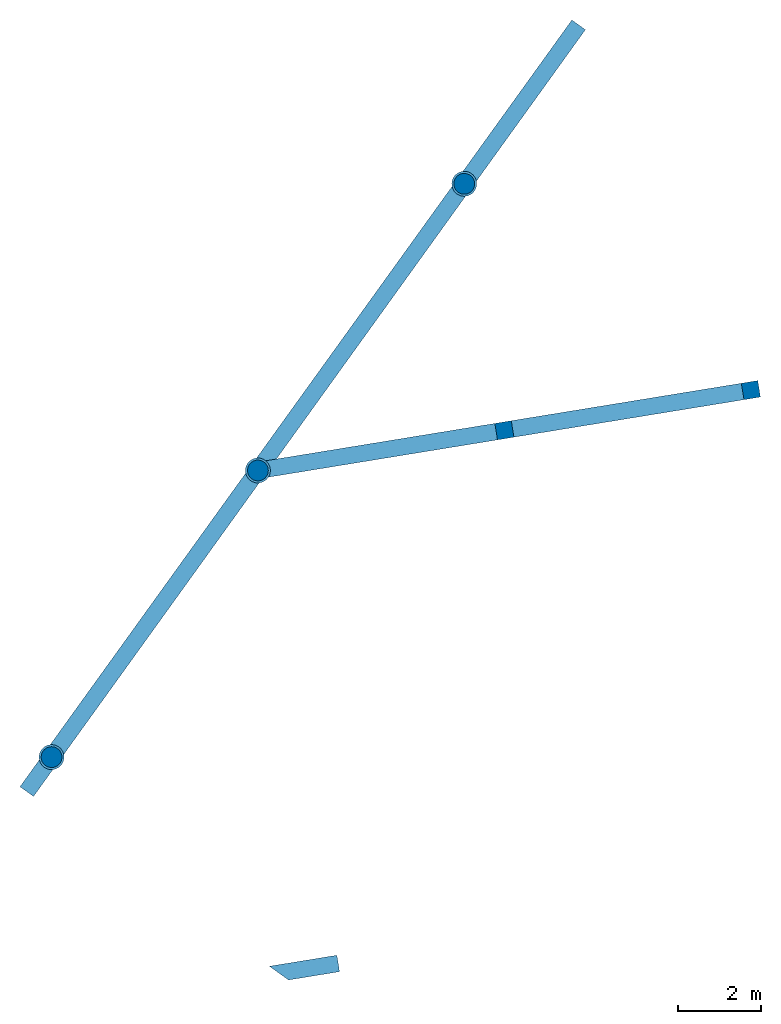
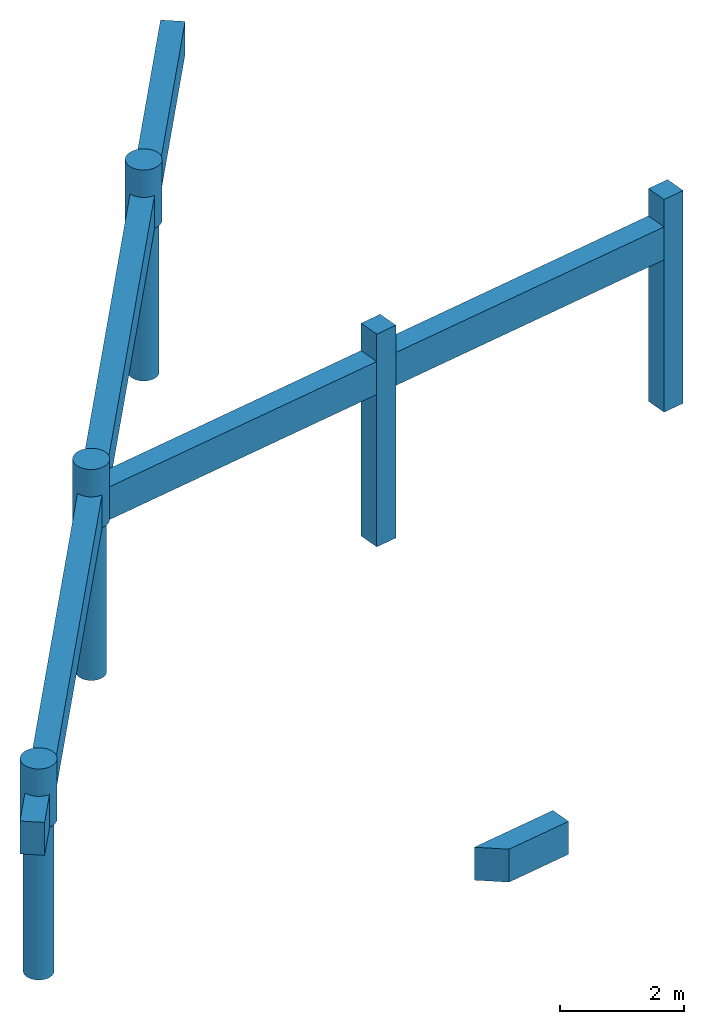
# One storey: 8 columns, 7 beams.
"""IFC2X3 building model written with IfcOpenShell, lengths in millimetres."""

from ifc_helpers import new_model, entity, si_unit, converted_unit, derived_unit, direction, frame, frame_2d, origin, origin_with_axes, place, context, subcontext, project, spatial, polyline, rectangle, outline, extrude, faceted_brep, material, type_object, element, save


model = new_model("IFC2X3")

# Units and contexts
model_context = context("Model", 3, precision=0.01, world=origin(), true_north=direction((6.12323399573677e-17, 1.0)))
plan_context = context("Plan", 3, precision=1e-05, world=origin_with_axes())
body_context = subcontext(model_context, "Body", "Model", "MODEL_VIEW")
ifc_project = project(units=[converted_unit("PLANEANGLEUNIT", "DEGREE", entity("IfcPositiveLengthMeasure", 0.0174532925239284), si_unit("PLANEANGLEUNIT", "RADIAN"), dimensions=[0, 0, 0, 0, 0, 0, 0]), si_unit("AREAUNIT", "SQUARE_METRE"), si_unit("LENGTHUNIT", "METRE", prefix="MILLI"), si_unit("MASSUNIT", "GRAM", prefix="KILO"), si_unit("POWERUNIT", "WATT"), si_unit("PRESSUREUNIT", "PASCAL", prefix="KILO"), si_unit("FORCEUNIT", "NEWTON", prefix="KILO"), si_unit("ELECTRICVOLTAGEUNIT", "VOLT"), si_unit("ELECTRICCURRENTUNIT", "AMPERE"), si_unit("THERMODYNAMICTEMPERATUREUNIT", "DEGREE_CELSIUS"), si_unit("TIMEUNIT", "SECOND"), si_unit("VOLUMEUNIT", "CUBIC_METRE"), derived_unit("LINEARVELOCITYUNIT", [(si_unit("LENGTHUNIT", "METRE"), 1), (si_unit("TIMEUNIT", "SECOND"), -1)]), derived_unit("VOLUMETRICFLOWRATEUNIT", [(si_unit("VOLUMEUNIT", "CUBIC_METRE"), 1), (si_unit("TIMEUNIT", "SECOND"), -1)]), derived_unit("THERMALTRANSMITTANCEUNIT", [(si_unit("POWERUNIT", "WATT"), 1), (si_unit("THERMODYNAMICTEMPERATUREUNIT", "KELVIN"), -1), (si_unit("AREAUNIT", "SQUARE_METRE"), -1)]), derived_unit("SOUNDPRESSUREUNIT", [(si_unit("PRESSUREUNIT", "PASCAL"), 1)])], contexts=[model_context, plan_context])

# Site, building, storey
site_placement = place(None, frame((5.09380697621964e-08, 5.80416781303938e-08, 0.0), z_axis=(0.0, 0.0, 1.0), x_axis=(-0.160806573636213, 0.986985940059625, 0.0)))
site = spatial("IfcSite", under=ifc_project, at=site_placement, Name="Default", CompositionType="ELEMENT")
building_placement = place(site_placement, frame((0.0, 0.0, 0.0), z_axis=(0.0, 0.0, 1.0), x_axis=(1.0, -2.77555756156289e-17, 0.0)))
building = spatial("IfcBuilding", under=site, at=building_placement, CompositionType="ELEMENT")
storey_placement = place(building_placement, frame((0.0, 0.0, 55500.0), z_axis=(0.0, 0.0, 1.0), x_axis=(1.0, -2.77555756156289e-17, 0.0)))
storey = spatial("IfcBuildingStorey", under=building, at=storey_placement, Name="H02-Nivå F-3,5 m", CompositionType="ELEMENT", Elevation=55500.0)

# Columns
column_type_1 = type_object("IfcColumnType", Name="400*400", PredefinedType="NOTDEFINED")
column_1_placement = place(storey_placement, frame((0.0, 0.0, 0.0), z_axis=(0.0, 0.0, 1.0), x_axis=(1.0, -2.77555756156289e-17, 0.0)))
element("IfcColumn", 1, at=column_1_placement, inside=storey, type_object=column_type_1, Name="PLASSTØPTSØYLE", ObjectType="400*400", context=body_context, shape_type="SweptSolid", body=[
    extrude(rectangle(XDim=4200.0, YDim=400.000000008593, at=frame_2d((-1.17815091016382e-09, 8.64019966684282e-12), x_axis=(0.0, 1.0))), frame((1004438.39738594, -354380.276417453, 2030.0), z_axis=(1.0, 5.17557297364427e-06, -2.62201526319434e-09), x_axis=(5.17557297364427e-06, -1.0, 0.0)), (0.0, 0.0, 1.0), 400.000000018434),
])
column_2_placement = place(storey_placement, frame((0.0, 0.0, 0.0), z_axis=(0.0, 0.0, 1.0), x_axis=(1.0, -2.77555756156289e-17, 0.0)))
element("IfcColumn", 2, at=column_2_placement, inside=storey, type_object=column_type_1, Name="PLASSTØPTSØYLE", ObjectType="400*400", context=body_context, shape_type="SweptSolid", body=[
    extrude(rectangle(XDim=4200.0, YDim=400.000000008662, at=frame_2d((-1.17815091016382e-09, 8.64019966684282e-12), x_axis=(0.0, 1.0))), frame((1004438.37087116, -348380.276417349, 2030.0), z_axis=(1.0, 5.17557297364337e-06, -2.62201526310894e-09), x_axis=(5.17557297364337e-06, -1.0, 0.0)), (0.0, 0.0, 1.0), 400.000000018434),
])
column_type_2 = type_object("IfcColumnType", Name="D500", PredefinedType="NOTDEFINED")
column_3_placement = place(storey_placement, frame((0.0, 0.0, 0.0), z_axis=(0.0, 0.0, 1.0), x_axis=(1.0, -2.77555756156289e-17, 0.0)))
element("IfcColumn", 3, at=column_3_placement, inside=storey, type_object=column_type_2, Name="PLASSTØPTSØYLE", ObjectType="D500", context=body_context, shape_type="SweptSolid", body=[
    extrude(outline(polyline([(-19.6147739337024, -249.229333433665), (19.614773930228, -249.229333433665), (58.361340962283, -243.092480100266), (95.670858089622, -230.969883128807), (130.624641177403, -213.160041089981), (162.362012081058, -190.101491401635), (190.101491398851, -162.362012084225), (213.160041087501, -130.624641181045), (230.969883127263, -95.6708580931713), (243.092480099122, -58.3613409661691), (249.229333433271, -19.6147739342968), (249.229333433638, 19.6147739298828), (243.092480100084, 58.3613409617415), (230.96988312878, 95.6708580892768), (213.160041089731, 130.624641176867), (190.10149140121, 162.362012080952), (162.362012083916, 190.101491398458), (130.624641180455, 213.160041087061), (95.6708580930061, 230.969883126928), (58.3613409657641, 243.09248009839), (19.6147739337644, 249.229333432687), (-19.6147739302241, 249.22933343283), (-58.361340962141, 243.09248009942), (-95.6708580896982, 230.96988312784), (-130.624641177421, 213.16004108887), (-162.362012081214, 190.101491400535), (-190.101491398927, 162.362012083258), (-213.16004108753, 130.624641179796), (-230.96988312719, 95.6708580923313), (-243.09248009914, 58.3613409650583), (-249.229333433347, 19.6147739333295), (-249.229333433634, -19.6147739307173), (-243.092480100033, -58.3613409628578), (-230.969883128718, -95.670858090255), (-213.160041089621, -130.624641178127), (-190.101491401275, -162.362012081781), (-162.362012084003, -190.101491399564), (-130.624641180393, -213.160041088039), (-95.6708580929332, -230.969883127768), (-58.361340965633, -243.092480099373), (-19.6147739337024, -249.229333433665)])), frame((1010638.37087845, -348380.248873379, -70.0), z_axis=(0.0, 0.0, 1.0), x_axis=(0.0784642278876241, -0.996916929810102, 0.0)), (0.0, 0.0, 1.0), 3009.99999999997),
])
column_4_placement = place(storey_placement, frame((0.0, 0.0, 0.0), z_axis=(0.0, 0.0, 1.0), x_axis=(1.0, -2.77555756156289e-17, 0.0)))
element("IfcColumn", 4, at=column_4_placement, inside=storey, type_object=column_type_2, Name="PLASSTØPTSØYLE", ObjectType="D500", context=body_context, shape_type="SweptSolid", body=[
    extrude(outline(polyline([(-19.614773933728, -249.229333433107), (19.6147739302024, -249.229333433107), (58.3613409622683, -243.092480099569), (95.6708580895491, -230.969883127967), (130.624641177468, -213.160041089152), (162.362012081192, -190.101491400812), (190.101491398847, -162.36201208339), (213.160041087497, -130.624641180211), (230.969883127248, -95.6708580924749), (243.092480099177, -58.3613409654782), (249.229333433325, -19.6147739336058), (249.229333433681, 19.6147739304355), (243.0924801, 58.3613409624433), (230.969883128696, 95.6708580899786), (213.160041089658, 130.624641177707), (190.101491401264, 162.362012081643), (162.36201208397, 190.101491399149), (130.62464118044, 213.160041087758), (95.6708580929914, 230.969883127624), (58.3613409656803, 243.092480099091), (19.6147739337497, 249.229333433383), (-19.6147739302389, 249.229333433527), (-58.3613409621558, 243.092480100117), (-95.6708580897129, 230.969883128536), (-130.624641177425, 213.160041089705), (-162.36201208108, 190.101491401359), (-190.101491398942, 162.362012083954), (-213.160041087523, 130.624641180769), (-230.969883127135, 95.6708580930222), (-243.092480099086, 58.3613409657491), (-249.229333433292, 19.6147739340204), (-249.229333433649, -19.614773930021), (-243.092480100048, -58.3613409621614), (-230.969883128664, -95.6708580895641), (-213.160041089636, -130.62464117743), (-190.101491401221, -162.362012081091), (-162.362012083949, -190.101491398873), (-130.624641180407, -213.160041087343), (-95.670858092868, -230.969883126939), (-58.3613409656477, -243.092480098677), (-19.614773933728, -249.229333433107)])), frame((1004638.34436327, -342380.27538765, -70.0), z_axis=(0.0, 0.0, 1.0), x_axis=(0.0784642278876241, -0.996916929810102, 0.0)), (0.0, 0.0, 1.0), 3009.99999999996),
])
column_5_placement = place(storey_placement, frame((0.0, 0.0, 0.0), z_axis=(0.0, 0.0, 1.0), x_axis=(1.0, -2.77555756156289e-17, 0.0)))
element("IfcColumn", 5, at=column_5_placement, inside=storey, type_object=column_type_2, Name="PLASSTØPTSØYLE", ObjectType="D500", context=body_context, shape_type="SweptSolid", body=[
    extrude(outline(polyline([(-19.6147739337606, -249.229333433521), (19.6147739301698, -249.229333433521), (58.3613409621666, -243.092480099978), (95.6708580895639, -230.969883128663), (130.624641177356, -213.160041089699), (162.362012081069, -190.101491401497), (190.101491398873, -162.362012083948), (213.160041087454, -130.624641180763), (230.969883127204, -95.6708580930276), (243.092480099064, -58.3613409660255), (249.229333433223, -19.614773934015), (249.22933343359, 19.6147739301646), (243.092480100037, 58.3613409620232), (230.969883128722, 95.6708580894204), (213.160041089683, 130.624641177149), (190.101491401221, 162.362012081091), (162.362012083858, 190.101491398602), (130.624641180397, 213.160041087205), (95.6708580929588, 230.96988312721), (58.3613409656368, 243.092480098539), (19.6147739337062, 249.229333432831), (-19.6147739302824, 249.229333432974), (-58.3613409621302, 243.092480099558), (-95.6708580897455, 230.969883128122), (-130.624641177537, 213.160041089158), (-162.362012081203, 190.101491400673), (-190.101491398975, 162.362012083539), (-213.160041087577, 130.624641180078), (-230.969883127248, 95.6708580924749), (-243.092480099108, 58.3613409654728), (-249.229333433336, 19.6147739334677), (-249.229333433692, -19.6147739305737), (-243.092480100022, -58.3613409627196), (-230.969883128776, -95.6708580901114), (-213.160041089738, -130.624641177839), (-190.101491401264, -162.362012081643), (-162.36201208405, -190.101491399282), (-130.62464118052, -213.16004108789), (-95.6708580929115, -230.969883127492), (-58.3613409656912, -243.09248009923), (-19.6147739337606, -249.229333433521)])), frame((998638.317848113, -336380.301901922, -70.0), z_axis=(0.0, 0.0, 1.0), x_axis=(0.0784642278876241, -0.996916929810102, 0.0)), (0.0, 0.0, 1.0), 3009.99999999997),
])
column_type_3 = type_object("IfcColumnType", Name="D600", PredefinedType="NOTDEFINED")
column_6_placement = place(storey_placement, frame((0.0, 0.0, 0.0), z_axis=(0.0, 0.0, 1.0), x_axis=(1.0, -2.77555756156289e-17, 0.0)))
element("IfcColumn", 6, at=column_6_placement, inside=storey, type_object=column_type_3, Name="PLASSTØPTSØYLE", ObjectType="D600", context=body_context, shape_type="SweptSolid", body=[
    extrude(outline(polyline([(-23.5377287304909, -299.07520013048), (23.5377287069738, -299.07520013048), (70.0336091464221, -291.710976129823), (114.805029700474, -277.163859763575), (156.749569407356, -255.792049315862), (194.834414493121, -228.121789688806), (228.121789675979, -194.834414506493), (255.79204930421, -156.749569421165), (277.163859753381, -114.805029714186), (291.710976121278, -70.0336091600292), (299.075200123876, -23.5377287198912), (299.075200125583, 23.5377287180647), (291.710976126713, 70.0336091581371), (277.163859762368, 114.805029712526), (255.792049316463, 156.749569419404), (228.121789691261, 194.834414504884), (194.834414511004, 228.121789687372), (156.749569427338, 255.792049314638), (114.805029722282, 277.163859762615), (70.0336091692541, 291.710976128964), (23.5377287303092, 299.075200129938), (-23.5377287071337, 299.075200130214), (-70.0336091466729, 291.710976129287), (-114.805029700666, 277.163859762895), (-156.74956940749, 255.792049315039), (-194.834414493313, 228.121789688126), (-228.12178967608, 194.834414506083), (-255.792049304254, 156.749569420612), (-277.163859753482, 114.805029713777), (-291.710976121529, 70.0336091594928), (-299.075200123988, 23.537728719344), (-299.075200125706, -23.5377287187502), (-291.710976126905, -70.0336091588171), (-277.163859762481, -114.805029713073), (-255.792049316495, -156.749569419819), (-228.121789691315, -194.834414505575), (-194.834414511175, -228.121789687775), (-156.749569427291, -255.79204931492), (-114.805029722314, -277.16385976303), (-70.0336091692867, -291.710976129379), (-23.5377287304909, -299.07520013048)])), frame((1010638.37087845, -348380.248873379, 2940.0), z_axis=(0.0, 0.0, 1.0), x_axis=(0.0784642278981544, -0.996916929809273, 0.0)), (0.0, 0.0, 1.0), 1190.00000000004),
])
column_7_placement = place(storey_placement, frame((0.0, 0.0, 0.0), z_axis=(0.0, 0.0, 1.0), x_axis=(1.0, -2.77555756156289e-17, 0.0)))
element("IfcColumn", 7, at=column_7_placement, inside=storey, type_object=column_type_3, Name="PLASSTØPTSØYLE", ObjectType="D600", context=body_context, shape_type="SweptSolid", body=[
    extrude(outline(polyline([(-23.5377287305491, -299.075200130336), (23.5377287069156, -299.075200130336), (70.0336091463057, -291.710976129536), (114.805029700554, -277.163859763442), (156.749569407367, -255.792049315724), (194.834414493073, -228.121789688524), (228.12178967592, -194.834414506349), (255.792049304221, -156.749569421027), (277.163859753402, -114.80502971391), (291.710976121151, -70.0336091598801), (299.075200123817, -23.5377287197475), (299.075200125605, 23.5377287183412), (291.710976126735, 70.0336091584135), (277.163859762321, 114.805029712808), (255.792049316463, 156.749569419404), (228.121789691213, 194.834414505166), (194.834414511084, 228.121789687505), (156.749569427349, 255.792049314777), (114.805029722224, 277.163859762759), (70.0336091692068, 291.710976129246), (23.537728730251, 299.075200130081), (-23.5377287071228, 299.075200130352), (-70.033609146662, 291.710976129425), (-114.805029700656, 277.163859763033), (-156.749569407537, 255.79204931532), (-194.83441449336, 228.121789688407), (-228.121789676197, 194.834414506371), (-255.792049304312, 156.749569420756), (-277.163859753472, 114.805029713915), (-291.710976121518, 70.0336091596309), (-299.075200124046, 23.5377287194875), (-299.075200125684, -23.5377287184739), (-291.710976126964, -70.0336091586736), (-277.163859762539, -114.805029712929), (-255.792049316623, -156.74956941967), (-228.121789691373, -194.834414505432), (-194.834414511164, -228.121789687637), (-156.749569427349, -255.792049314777), (-114.805029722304, -277.163859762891), (-70.0336091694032, -291.710976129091), (-23.5377287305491, -299.075200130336)])), frame((1004638.34436327, -342380.27538765, 2940.0), z_axis=(0.0, 0.0, 1.0), x_axis=(0.0784642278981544, -0.996916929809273, 0.0)), (0.0, 0.0, 1.0), 1190.00000000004),
])
column_8_placement = place(storey_placement, frame((0.0, 0.0, 0.0), z_axis=(0.0, 0.0, 1.0), x_axis=(1.0, -2.77555756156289e-17, 0.0)))
element("IfcColumn", 8, at=column_8_placement, inside=storey, type_object=column_type_3, Name="PLASSTØPTSØYLE", ObjectType="D600", context=body_context, shape_type="SweptSolid", body=[
    extrude(outline(polyline([(-23.5377287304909, -299.07520013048), (23.5377287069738, -299.07520013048), (70.0336091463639, -291.710976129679), (114.805029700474, -277.163859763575), (156.749569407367, -255.792049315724), (194.8344144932, -228.121789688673), (228.121789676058, -194.83441450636), (255.79204930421, -156.749569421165), (277.163859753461, -114.805029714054), (291.710976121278, -70.0336091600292), (299.075200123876, -23.5377287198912), (299.075200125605, 23.5377287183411), (291.710976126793, 70.0336091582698), (277.163859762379, 114.805029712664), (255.792049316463, 156.749569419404), (228.121789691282, 194.834414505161), (194.834414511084, 228.121789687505), (156.749569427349, 255.792049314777), (114.805029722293, 277.163859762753), (70.033609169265, 291.710976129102), (23.5377287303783, 299.075200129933), (-23.5377287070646, 299.075200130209), (-70.033609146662, 291.710976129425), (-114.805029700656, 277.163859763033), (-156.749569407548, 255.792049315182), (-194.834414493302, 228.121789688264), (-228.121789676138, 194.834414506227), (-255.792049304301, 156.749569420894), (-277.163859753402, 114.80502971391), (-291.71097612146, 70.0336091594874), (-299.075200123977, 23.5377287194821), (-299.075200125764, -23.5377287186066), (-291.710976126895, -70.0336091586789), (-277.16385976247, -114.805029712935), (-255.792049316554, -156.749569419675), (-228.121789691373, -194.834414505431), (-194.834414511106, -228.121789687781), (-156.74956942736, -255.792049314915), (-114.805029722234, -277.163859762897), (-70.033609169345, -291.710976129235), (-23.5377287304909, -299.07520013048)])), frame((998638.317848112, -336380.301901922, 2940.0), z_axis=(0.0, 0.0, 1.0), x_axis=(0.0784642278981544, -0.996916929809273, 0.0)), (0.0, 0.0, 1.0), 1190.00000000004),
])

# Beams
ifc_material = material(Name="CONCRETE/C55/67 171016")
beam_type = type_object("IfcBeamType", Name="650*400", PredefinedType="NOTDEFINED")
beam_1_placement = place(storey_placement, frame((0.0, 0.0, 0.0), z_axis=(0.0, 0.0, 1.0), x_axis=(1.0, -2.77555756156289e-17, 0.0)))
element("IfcBeam", 9, at=beam_1_placement, inside=storey, type_object=beam_type, material=ifc_material, Name="PLASSTØPTBJELKE", ObjectType="650*400", context=body_context, shape_type="SweptSolid", body=[
    extrude(rectangle(XDim=650.000000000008, YDim=5999.99991419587, at=frame_2d((8.66862137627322e-12, 3.45607986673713e-11), x_axis=(1.0, 0.0))), frame((1004438.38368058, -351380.276198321, 3265.0), z_axis=(1.0, 4.26751170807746e-06, 0.0), x_axis=(0.0, 0.0, -1.0)), (0.0, 0.0, 1.0), 400.000000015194),
])
beam_2_placement = place(storey_placement, frame((0.0, 0.0, 0.0), z_axis=(0.0, 0.0, 1.0), x_axis=(1.0, -2.77555756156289e-17, 0.0)))
element("IfcBeam", 10, at=beam_2_placement, inside=storey, type_object=beam_type, material=ifc_material, Name="PLASSTØPTBJELKE", ObjectType="650*400", context=body_context, shape_type="SweptSolid", body=[
    extrude(rectangle(XDim=650.000000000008, YDim=5999.99991419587, at=frame_2d((8.66862137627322e-12, -3.45607986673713e-11), x_axis=(1.0, 0.0))), frame((1004438.3571658, -345380.276198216, 3265.0), z_axis=(1.0, 4.26751170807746e-06, 0.0), x_axis=(0.0, 0.0, -1.0)), (0.0, 0.0, 1.0), 400.000000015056),
])
beam_3_placement = place(storey_placement, frame((0.0, 0.0, 0.0), z_axis=(0.0, 0.0, 1.0), x_axis=(1.0, -2.77555756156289e-17, 0.0)))
element("IfcBeam", 11, at=beam_3_placement, inside=storey, type_object=beam_type, material=ifc_material, Name="PLASSTØPTBJELKE", ObjectType="650*400", context=body_context, shape_type="SweptSolid", body=[
    extrude(rectangle(XDim=650.000000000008, YDim=400.000000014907, at=frame_2d((0.0, 7.34985405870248e-11), x_axis=(1.0, 0.0))), frame((998638.317848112, -336380.301901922, 3265.0), z_axis=(0.70710946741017, -0.707104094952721, 0.0), x_axis=(0.0, 0.0, 1.0)), (0.0, 0.0, 1.0), 8485.27926932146),
])
beam_4_placement = place(storey_placement, frame((0.0, 0.0, 0.0), z_axis=(0.0, 0.0, 1.0), x_axis=(1.0, -2.77555756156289e-17, 0.0)))
element("IfcBeam", 12, at=beam_4_placement, inside=storey, type_object=beam_type, material=ifc_material, Name="PLASSTØPTBJELKE", ObjectType="650*400", context=body_context, shape_type="SweptSolid", body=[
    extrude(rectangle(XDim=650.000000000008, YDim=400.000000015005, at=frame_2d((0.0, -2.44995135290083e-11), x_axis=(1.0, 0.0))), frame((1004638.34436327, -342380.27538765, 3265.0), z_axis=(0.707109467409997, -0.707104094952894, 0.0), x_axis=(0.0, 0.0, 1.0)), (0.0, 0.0, 1.0), 8485.27926932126),
])
beam_5_placement = place(storey_placement, frame((0.0, 0.0, 0.0), z_axis=(0.0, 0.0, 1.0), x_axis=(1.0, -2.77555756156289e-17, 0.0)))
element("IfcBeam", 13, at=beam_5_placement, inside=storey, type_object=beam_type, Name="PLASSTØPTBJELKE", ObjectType="650*400", context=body_context, shape_type="Brep", body=[
    faceted_brep([(1013823.97339526, -351848.668662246, 2940.0), (1014106.81610774, -351565.825949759, 2940.0), (1010921.21367216, -348380.247717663, 2940.0), (1010638.37203417, -348663.091504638, 2940.0), (1014106.81610774, -351565.825949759, 3590.00000000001), (1010921.21367216, -348380.247717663, 3590.00000000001), (1013823.97339526, -351848.668662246, 3590.00000000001), (1010638.37203417, -348663.091504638, 3590.00000000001)], [[[0, 1, 2, 3]], [[1, 4, 5, 2]], [[4, 6, 7, 5]], [[6, 0, 3, 7]], [[3, 2, 5, 7]], [[6, 4, 1, 0]]], orient=[[False], [False], [False], [False], [False], [False]]),
])
beam_6_placement = place(storey_placement, frame((0.0, 0.0, 0.0), z_axis=(0.0, 0.0, 1.0), x_axis=(1.0, -2.77555756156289e-17, 0.0)))
element("IfcBeam", 14, at=beam_6_placement, inside=storey, type_object=beam_type, Name="PLASSTØPTBJELKE", ObjectType="650*400", context=body_context, shape_type="Brep", body=[
    faceted_brep([(998058.490821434, -335517.645085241, 2940.0), (997775.648108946, -335800.487797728, 2940.0), (998496.8918189, -336521.726027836, 2940.0), (998779.733456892, -336238.882240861, 2940.0), (998058.490821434, -335517.645085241, 3590.0), (998779.733456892, -336238.882240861, 3590.0), (997775.648108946, -335800.487797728, 3590.0), (998496.8918189, -336521.726027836, 3590.0)], [[[0, 1, 2, 3]], [[4, 0, 3, 5]], [[6, 4, 5, 7]], [[1, 6, 7, 2]], [[3, 2, 7, 5]], [[4, 6, 1, 0]]], orient=[[False], [False], [False], [False], [False], [False]]),
])
beam_7_placement = place(storey_placement, frame((0.0, 0.0, 0.0), z_axis=(0.0, 0.0, 1.0), x_axis=(1.0, -2.77555756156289e-17, 0.0)))
element("IfcBeam", 15, at=beam_7_placement, inside=storey, type_object=beam_type, Name="PLASSTØPTBJELKE", ObjectType="650*400", context=body_context, shape_type="Brep", body=[
    faceted_brep([(992438.338150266, -341137.797756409, 3590.0), (992838.336443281, -340737.79822369, 3590.0), (992838.343452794, -342380.327476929, 3590.0), (992438.343452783, -342380.329183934, 3590.0), (992838.343452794, -342380.327476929, 2939.99999999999), (992438.343452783, -342380.329183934, 2939.99999999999), (992838.336443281, -340737.79822369, 2939.99999999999), (992438.338150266, -341137.797756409, 2939.99999999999), (992838.336443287, -340737.799463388, 2939.99999999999), (992838.336443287, -340737.799463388, 3590.0)], [[[0, 1, 2, 3]], [[3, 2, 4, 5]], [[6, 7, 5, 4]], [[7, 0, 3, 5]], [[1, 6, 4, 2]], [[7, 8, 9, 0]]], orient=[[False], [False], [False], [False], [False], [False]]),
])

save(model, "model.ifc")
